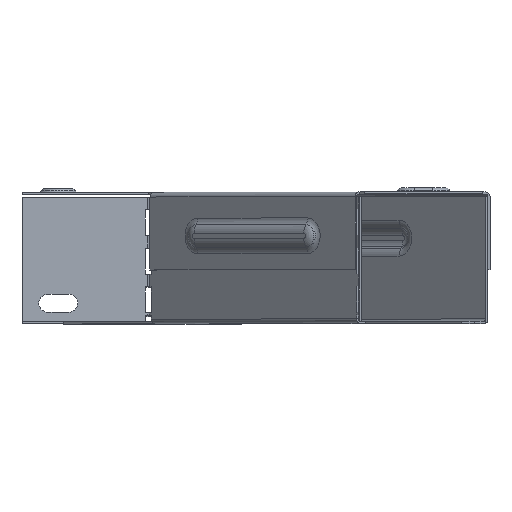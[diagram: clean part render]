
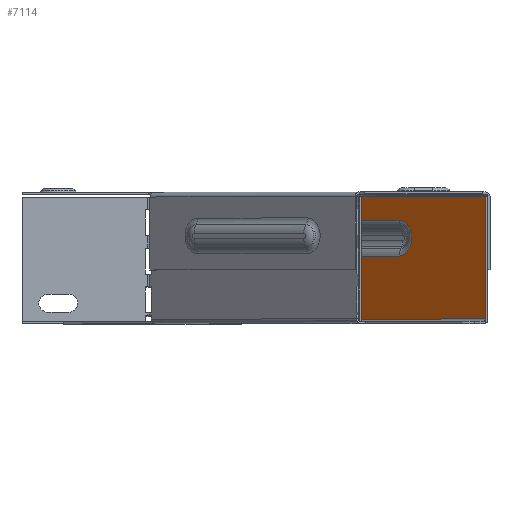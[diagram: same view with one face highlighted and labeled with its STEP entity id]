
A CAD part, top view. The second image highlights one B-rep face of the part: STEP entity #7114.
In plain terms, the highlighted planar face has unit normal (-0.707, 0, 0.707).
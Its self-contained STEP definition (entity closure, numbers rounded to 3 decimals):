
#15 = CARTESIAN_POINT ( 'NONE',  ( 89.123, 1., 20.255 ) ) ;
#508 = CARTESIAN_POINT ( 'NONE',  ( 55.648, 25.359, -13.221 ) ) ;
#1320 = CARTESIAN_POINT ( 'NONE',  ( 55.648, 39.193, -13.221 ) ) ;
#1553 = DIRECTION ( 'NONE',  ( 0.707, 0., 0.707 ) ) ;
#1765 = DIRECTION ( 'NONE',  ( 0., 1., 0. ) ) ;
#2584 = ORIENTED_EDGE ( 'NONE', *, *, #11752, .T. ) ;
#2715 = ORIENTED_EDGE ( 'NONE', *, *, #5607, .F. ) ;
#2885 = CARTESIAN_POINT ( 'NONE',  ( 89.123, 0., 20.255 ) ) ;
#2973 = CARTESIAN_POINT ( 'NONE',  ( 34.434, 39.193, -34.434 ) ) ;
#3011 = LINE ( 'NONE', #2973, #9883 ) ;
#3308 = VECTOR ( 'NONE', #1765, 1000. ) ;
#3389 = VERTEX_POINT ( 'NONE', #508 ) ;
#3558 = AXIS2_PLACEMENT_3D ( 'NONE', #12112, #7192, #4672 ) ;
#4158 = DIRECTION ( 'NONE',  ( -0.707, 0., -0.707 ) ) ;
#4372 = LINE ( 'NONE', #15148, #5704 ) ;
#4467 = CIRCLE ( 'NONE', #3558, 6.917 ) ;
#4672 = DIRECTION ( 'NONE',  ( 0., 1., 0. ) ) ;
#4793 = VERTEX_POINT ( 'NONE', #14642 ) ;
#5342 = VERTEX_POINT ( 'NONE', #15 ) ;
#5458 = VECTOR ( 'NONE', #10423, 1000. ) ;
#5607 = EDGE_CURVE ( 'NONE', #12615, #4793, #9393, .T. ) ;
#5704 = VECTOR ( 'NONE', #4158, 1000. ) ;
#5945 = VERTEX_POINT ( 'NONE', #13574 ) ;
#6772 = DIRECTION ( 'NONE',  ( -0.707, 0., -0.707 ) ) ;
#7114 = ADVANCED_FACE ( 'NONE', ( #9607, #12108 ), #11283, .T. ) ;
#7192 = DIRECTION ( 'NONE',  ( -0.707, 0., 0.707 ) ) ;
#8352 = EDGE_LOOP ( 'NONE', ( #10087, #12821, #15558, #10595 ) ) ;
#8499 = AXIS2_PLACEMENT_3D ( 'NONE', #9401, #15586, #14421 ) ;
#8715 = CARTESIAN_POINT ( 'NONE',  ( -20.255, 48.2, -89.123 ) ) ;
#8996 = CARTESIAN_POINT ( 'NONE',  ( 13.221, 25.359, -55.648 ) ) ;
#9062 = EDGE_CURVE ( 'NONE', #5342, #5945, #4372, .T. ) ;
#9393 = LINE ( 'NONE', #14284, #10741 ) ;
#9401 = CARTESIAN_POINT ( 'NONE',  ( 55.648, 32.276, -13.221 ) ) ;
#9527 = DIRECTION ( 'NONE',  ( 0.707, 0., 0.707 ) ) ;
#9607 = FACE_BOUND ( 'NONE', #8352, .T. ) ;
#9883 = VECTOR ( 'NONE', #6772, 1000. ) ;
#10087 = ORIENTED_EDGE ( 'NONE', *, *, #12506, .F. ) ;
#10423 = DIRECTION ( 'NONE',  ( 0.707, 0., 0.707 ) ) ;
#10483 = EDGE_CURVE ( 'NONE', #12025, #12332, #3011, .T. ) ;
#10569 = VERTEX_POINT ( 'NONE', #8996 ) ;
#10595 = ORIENTED_EDGE ( 'NONE', *, *, #11232, .F. ) ;
#10709 = VECTOR ( 'NONE', #13703, 1000. ) ;
#10741 = VECTOR ( 'NONE', #9527, 1000. ) ;
#10850 = CIRCLE ( 'NONE', #8499, 6.917 ) ;
#11111 = ORIENTED_EDGE ( 'NONE', *, *, #9062, .F. ) ;
#11232 = EDGE_CURVE ( 'NONE', #10569, #3389, #14484, .T. ) ;
#11283 = PLANE ( 'NONE',  #15293 ) ;
#11752 = EDGE_CURVE ( 'NONE', #5342, #4793, #11916, .T. ) ;
#11916 = LINE ( 'NONE', #2885, #3308 ) ;
#12025 = VERTEX_POINT ( 'NONE', #1320 ) ;
#12108 = FACE_OUTER_BOUND ( 'NONE', #15699, .T. ) ;
#12112 = CARTESIAN_POINT ( 'NONE',  ( 13.221, 32.276, -55.648 ) ) ;
#12191 = EDGE_CURVE ( 'NONE', #5945, #12615, #15322, .T. ) ;
#12332 = VERTEX_POINT ( 'NONE', #14091 ) ;
#12506 = EDGE_CURVE ( 'NONE', #12332, #10569, #4467, .T. ) ;
#12615 = VERTEX_POINT ( 'NONE', #8715 ) ;
#12632 = CARTESIAN_POINT ( 'NONE',  ( 34.434, 0., -34.434 ) ) ;
#12821 = ORIENTED_EDGE ( 'NONE', *, *, #10483, .F. ) ;
#12901 = CARTESIAN_POINT ( 'NONE',  ( 34.434, 25.359, -34.434 ) ) ;
#13574 = CARTESIAN_POINT ( 'NONE',  ( -20.255, 1., -89.123 ) ) ;
#13649 = CARTESIAN_POINT ( 'NONE',  ( -20.255, 0., -89.123 ) ) ;
#13703 = DIRECTION ( 'NONE',  ( 0., 1., 0. ) ) ;
#13715 = DIRECTION ( 'NONE',  ( -0.707, 0., 0.707 ) ) ;
#14091 = CARTESIAN_POINT ( 'NONE',  ( 13.221, 39.193, -55.648 ) ) ;
#14188 = ORIENTED_EDGE ( 'NONE', *, *, #12191, .F. ) ;
#14284 = CARTESIAN_POINT ( 'NONE',  ( 89.434, 48.2, 20.566 ) ) ;
#14421 = DIRECTION ( 'NONE',  ( 0., 1., 0. ) ) ;
#14484 = LINE ( 'NONE', #12901, #5458 ) ;
#14642 = CARTESIAN_POINT ( 'NONE',  ( 89.123, 48.2, 20.255 ) ) ;
#15148 = CARTESIAN_POINT ( 'NONE',  ( 89.434, 1., 20.566 ) ) ;
#15293 = AXIS2_PLACEMENT_3D ( 'NONE', #12632, #13715, #1553 ) ;
#15322 = LINE ( 'NONE', #13649, #10709 ) ;
#15558 = ORIENTED_EDGE ( 'NONE', *, *, #15679, .F. ) ;
#15586 = DIRECTION ( 'NONE',  ( -0.707, 0., 0.707 ) ) ;
#15679 = EDGE_CURVE ( 'NONE', #3389, #12025, #10850, .T. ) ;
#15699 = EDGE_LOOP ( 'NONE', ( #11111, #2584, #2715, #14188 ) ) ;
